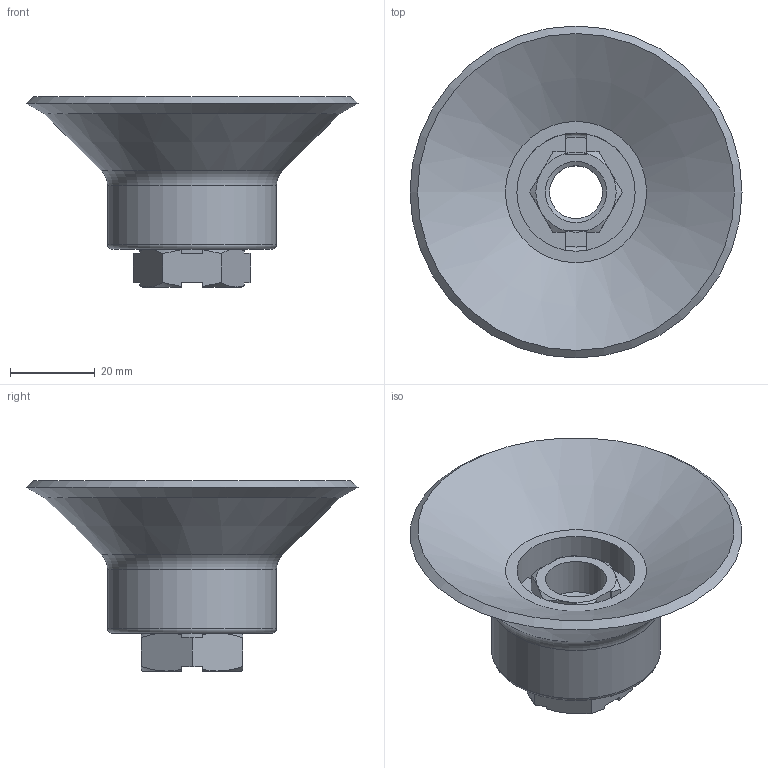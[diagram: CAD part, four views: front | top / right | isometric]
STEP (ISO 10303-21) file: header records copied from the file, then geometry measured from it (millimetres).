
FILE_DESCRIPTION(('STEP AP214'),'1');
FILE_NAME(').stp','2026-03-23T07:40:05',(' '),(' '),'Spatial InterOp 3D',' ',' ');
FILE_SCHEMA(('AUTOMOTIVE_DESIGN { 1 0 10303 214 1 1 1 1 }'));
Length unit declared in the file: millimetre
Products named in the file (5): LFK-M14-PKMG-75T; PKMG-75T-W; LFK-M14; NUT; FITTING
Assembly tree (4 placements, depth 3):
  LFK-M14-PKMG-75T
    PKMG-75T-W
    LFK-M14
      NUT
      FITTING
Bounding box: 78.58 x 78.58 x 45 mm (x, y, z)
Volume: 43274.8 mm3; surface area: 19851.3 mm2
Topology: 3 solids, 3 shells, 109 faces, 288 edges, 186 vertices
Faces by surface type: plane 55, cone 33, cylinder 18, torus 3
Full cylindrical faces by diameter (mm): 12.5 x2, 14.5 x1, 19 x1, 28 x1, 40 x1
Entity records: 4374 total; most frequent: CARTESIAN_POINT 829, ORIENTED_EDGE 542, DIRECTION 504, EDGE_CURVE 271, AXIS2_PLACEMENT_3D 186, VERTEX_POINT 183, LINE 132, VECTOR 132
